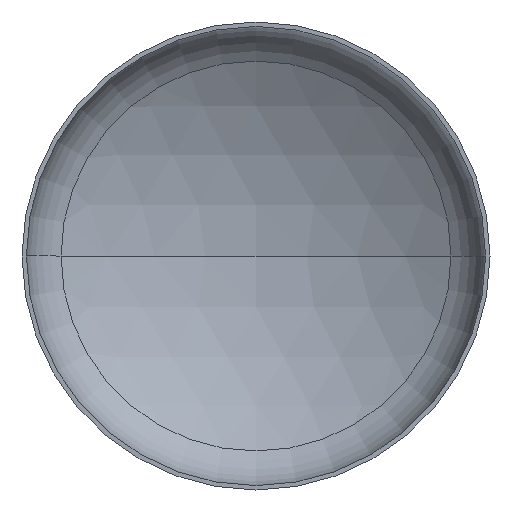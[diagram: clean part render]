
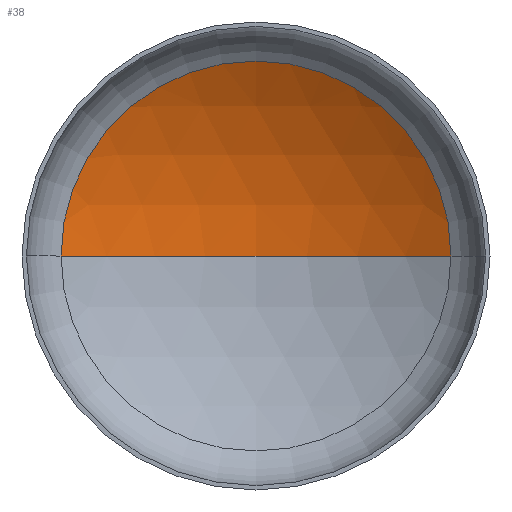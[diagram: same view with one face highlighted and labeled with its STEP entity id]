
A CAD part, front view. The second image highlights one B-rep face of the part: STEP entity #38.
In plain terms, the highlighted spherical face has radius 5600 mm.
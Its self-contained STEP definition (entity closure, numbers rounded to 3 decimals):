
#14 = DIRECTION ( 'NONE',  ( 1., 0., 0. ) ) ;
#16 = DIRECTION ( 'NONE',  ( 0., 0., 1. ) ) ;
#28 = VERTEX_POINT ( 'NONE', #276 ) ;
#35 = ORIENTED_EDGE ( 'NONE', *, *, #265, .F. ) ;
#38 = ADVANCED_FACE ( 'NONE', ( #109 ), #239, .F. ) ;
#73 = CARTESIAN_POINT ( 'NONE',  ( -2916.46, 1041.975, 0. ) ) ;
#79 = VERTEX_POINT ( 'NONE', #225 ) ;
#81 = CARTESIAN_POINT ( 'NONE',  ( 0., -3738.638, 0. ) ) ;
#85 = EDGE_LOOP ( 'NONE', ( #35, #248, #110 ) ) ;
#109 = FACE_OUTER_BOUND ( 'NONE', #85, .T. ) ;
#110 = ORIENTED_EDGE ( 'NONE', *, *, #254, .T. ) ;
#114 = CIRCLE ( 'NONE', #145, 5600. ) ;
#129 = AXIS2_PLACEMENT_3D ( 'NONE', #147, #16, #14 ) ;
#145 = AXIS2_PLACEMENT_3D ( 'NONE', #191, #187, #188 ) ;
#147 = CARTESIAN_POINT ( 'NONE',  ( 0., -3738.638, 0. ) ) ;
#149 = AXIS2_PLACEMENT_3D ( 'NONE', #335, #197, #157 ) ;
#157 = DIRECTION ( 'NONE',  ( 1., 0., 0. ) ) ;
#185 = CIRCLE ( 'NONE', #129, 5600. ) ;
#187 = DIRECTION ( 'NONE',  ( 0., 0., -1. ) ) ;
#188 = DIRECTION ( 'NONE',  ( -1., 0., 0. ) ) ;
#191 = CARTESIAN_POINT ( 'NONE',  ( 0., -3738.638, 0. ) ) ;
#197 = DIRECTION ( 'NONE',  ( 0., -1., 0. ) ) ;
#206 = AXIS2_PLACEMENT_3D ( 'NONE', #81, #235, #257 ) ;
#225 = CARTESIAN_POINT ( 'NONE',  ( 2916.46, 1041.975, 0. ) ) ;
#235 = DIRECTION ( 'NONE',  ( 0., 0., -1. ) ) ;
#239 = SPHERICAL_SURFACE ( 'NONE', #206, 5600. ) ;
#248 = ORIENTED_EDGE ( 'NONE', *, *, #256, .T. ) ;
#254 = EDGE_CURVE ( 'NONE', #79, #305, #340, .T. ) ;
#256 = EDGE_CURVE ( 'NONE', #28, #79, #114, .T. ) ;
#257 = DIRECTION ( 'NONE',  ( -1., 0., 0. ) ) ;
#265 = EDGE_CURVE ( 'NONE', #28, #305, #185, .T. ) ;
#276 = CARTESIAN_POINT ( 'NONE',  ( 0., 1861.362, 0. ) ) ;
#305 = VERTEX_POINT ( 'NONE', #73 ) ;
#335 = CARTESIAN_POINT ( 'NONE',  ( 0., 1041.975, 0. ) ) ;
#340 = CIRCLE ( 'NONE', #149, 2916.46 ) ;
